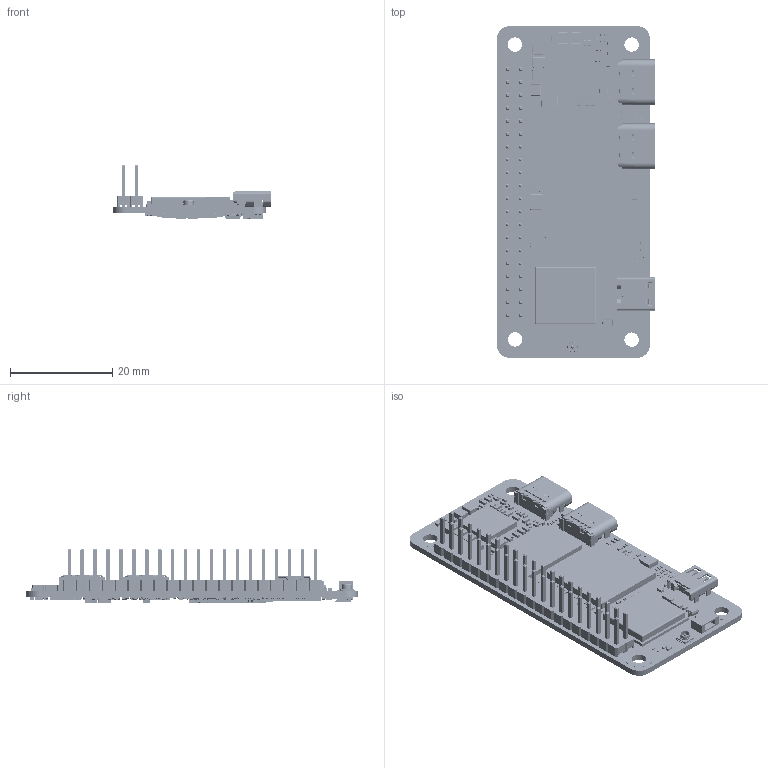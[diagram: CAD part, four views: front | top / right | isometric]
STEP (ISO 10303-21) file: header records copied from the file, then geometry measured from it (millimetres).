
FILE_DESCRIPTION((''),'2;1');
FILE_NAME('RS503_X100-20250331_ASM','2026-05-15T11:36:43',('Owen'),(''),'CREO PARAMETRIC BY PTC INC, 2025383','CREO PARAMETRIC BY PTC INC, 2025383','');
FILE_SCHEMA(('CONFIG_CONTROL_DESIGN','SHAPE_APPEARANCE_LAYERS_GROUPS'));
Products named in the file (47): RS503_X100-20250331; SW_SM2_2D5_STA; LGA22_1D27_12D2_13D0; SOD_323; QFN14_0D5_2D5; HOLE_5D5_2D7; LED_D0603; FB0805; FB0603; SOT_723; SOT_23; OSC_SM4_2D5X2D0; XSON10_0D5_1D1X2D6; BGA153_0D5_11D5; DFN1006-2L; ESD_D0402; SOD_123; L_2520; TP_0D5; BGA570P40_50B1500_1500H95; SOT23_5; OSC_SM2_3D2X1D5; C0201; C0603; C0402; R0201; R0402; R0603; BGA147P50B800_800H113; BGA200P65_80B1000_1500H90; 000_9_5; BODY44-4555; USB-16PIN-TYPEC_FIN_1_252_2_5; FPC_31P; MICRO-RFB01-H10-01_3_2; MICRO-RFB01-S10-02_1_2; MICRO-RFB01-T00-03_3_2; MICRO-RFB01-A10-00_ASM_3_ASM_2_ASM; MICRO-RFB01-A10-00_ASM_ASM_2_ASM; MICRO-RFB01_ASM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
Assembly tree (498 placements, depth 5):
  RS503_X100-20250331_ASM
    RS503_X100-20250331
    SW_SM2_2D5_STA
    LGA22_1D27_12D2_13D0
    SOD_323
    QFN14_0D5_2D5
    HOLE_5D5_2D7  x4
    LED_D0603
    FB0805
    FB0603
    SOT_723
    SOT_23
    OSC_SM4_2D5X2D0
    XSON10_0D5_1D1X2D6  x2
    BGA153_0D5_11D5
    DFN1006-2L  x19
    ESD_D0402
    SOD_123
    L_2520  x9
    TP_0D5  x2
    BGA570P40_50B1500_1500H95
    SOT23_5
    OSC_SM2_3D2X1D5
    C0201  x176
    C0603  x51
    C0402  x53
    R0201  x106
    R0402  x36
    R0603  x4
    BGA147P50B800_800H113
    BGA200P65_80B1000_1500H90
    000_9_5
    BODY44-4555
    USB-16PIN-TYPEC_FIN_1_252_2_5  x2
    FPC_31P
    MICRO-RFB01_ASM
      MICRO-RFB01-A10-00_ASM_ASM_2_ASM
        MICRO-RFB01-A10-00_ASM_3_ASM_2_ASM
          MICRO-RFB01-H10-01_3_2
          MICRO-RFB01-S10-02_1_2
          MICRO-RFB01-T00-03_3_2
    FFC_FPC_AFFC23-16-050-SHB-R_ASM
      FFC_FPC_AFFC23-16-050-SHB--1403_ASM
        FFC_FPC_AFFC23-16-050-SHB--4184
        FFC_FPC_AFFC23-16-050-SHB-R_2
        FFC_FPC_AFFC23-16-050-SHB-R_3
    USER_LIBRARY-TF-123-ARP9H15
Bounding box: 31.01 x 65.01 x 10.77 mm (x, y, z)
Volume: 4381.4 mm3; surface area: 10573.8 mm2
Topology: 573 solids, 577 shells, 27711 faces, 62094 edges, 35391 vertices
Faces by surface type: plane 11437, cylinder 11022, sphere 4160, torus 1023, cone 25, bspline 24, extrusion 20
Entity records: 166313 total; most frequent: CARTESIAN_POINT 28343, ORIENTED_EDGE 24498, DIRECTION 23386, EDGE_CURVE 12249, VECTOR 10648, LINE 10636, VERTEX_POINT 7977, AXIS2_PLACEMENT_3D 6369
